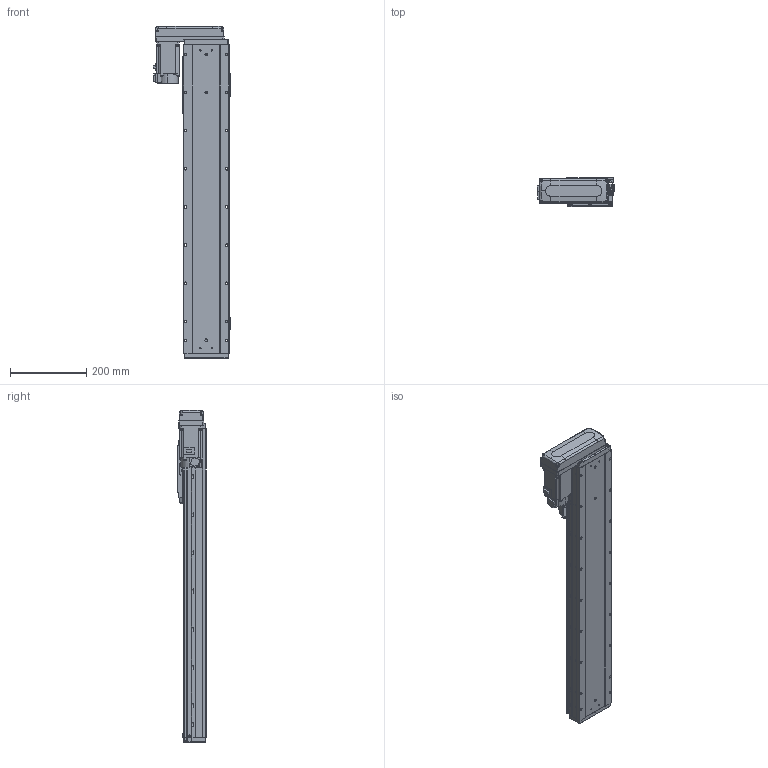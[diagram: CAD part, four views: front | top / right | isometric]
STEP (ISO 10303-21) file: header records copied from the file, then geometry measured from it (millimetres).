
FILE_DESCRIPTION (( 'STEP AP203' ), '1' );
FILE_NAME ('GTH12-600-BR-M40-C4.step', '2025-07-16T03:44:54', ( '' ), ( '' ), 'SwSTEP 2.0', 'SolidWorks 2023', '' );
FILE_SCHEMA (( 'CONFIG_CONTROL_DESIGN' ));
Length unit declared in the file: millimetre
Products named in the file (18): GBT 70.1-M5×16; BTH-M3X5X6; GTH80-022; GTH50-023; GBT96.1-2002 3×0.8; GTH50-024; hg-kn43j_-s100_; GBT 70.3-M3×8; GTH120-001_600; GTH120-013; GTH120-027-1_GTH120-027-2; GTH120-004; GTH120-003; CTHA86-033_M40B; GTH12-600-BR-M40-C4; GTH120-006; GBT 70.1-M3×6; GTH80-028
Assembly tree (59 placements, depth 2):
  GTH12-600-BR-M40-C4
    GTH120-001_600
    GTH120-003
    GTH120-006
    GTH120-004
    GTH120-013
    GBT 70.1-M3×6  x14
    GBT 70.1-M5×16  x10
    GBT 70.3-M3×8  x4
    GTH80-022
    GTH80-028  x2
    GTH50-023  x3
    GTH50-024  x3
    GBT96.1-2002 3×0.8  x6
    BTH-M3X5X6  x8
    hg-kn43j_-s100_
    CTHA86-033_M40B
    GTH120-027-1_GTH120-027-2
Bounding box: 203.5 x 76 x 870.5 mm (x, y, z)
Volume: 6526981.7 mm3; surface area: 615771 mm2
Topology: 61 solids, 61 shells, 2453 faces, 5722 edges, 3511 vertices
Faces by surface type: plane 1264, cylinder 709, cone 292, torus 174, sphere 8, bspline 6
Entity records: 45880 total; most frequent: CARTESIAN_POINT 7772, DIRECTION 7594, ORIENTED_EDGE 7054, EDGE_CURVE 3527, AXIS2_PLACEMENT_3D 2654, LINE 2286, VECTOR 2286, VERTEX_POINT 2232
